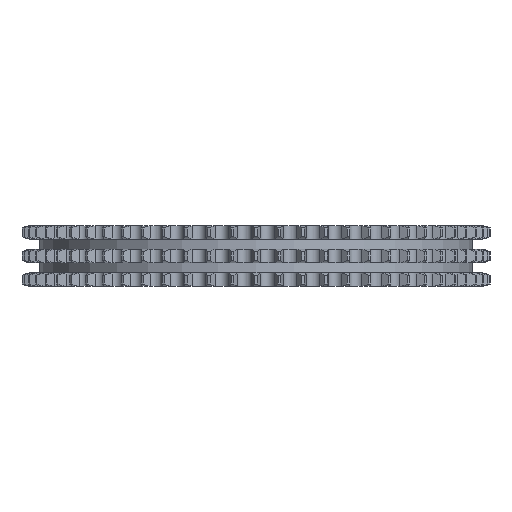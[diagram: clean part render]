
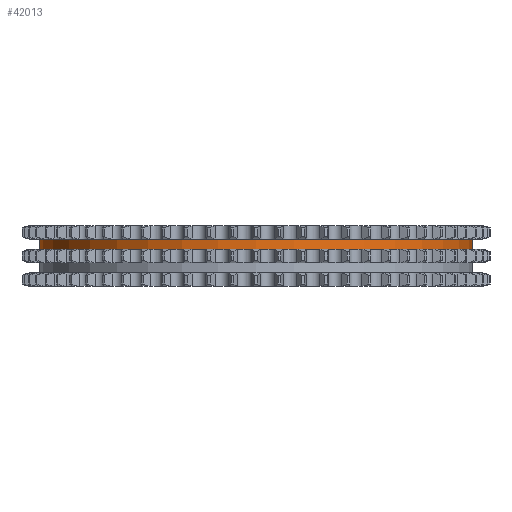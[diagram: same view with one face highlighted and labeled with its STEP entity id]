
A CAD part, left-side view. The second image highlights one B-rep face of the part: STEP entity #42013.
In plain terms, the highlighted cylindrical face has radius 177.058 mm (diameter 354.117 mm), a partial arc.
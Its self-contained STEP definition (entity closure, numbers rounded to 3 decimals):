
#7697=DIRECTION('',(0.,0.,-1.));
#7698=VECTOR('',#7697,8.25);
#7699=CARTESIAN_POINT('',(0.,177.058,13.8));
#7700=LINE('',#7699,#7698);
#7704=CARTESIAN_POINT('',(0.,0.,13.8));
#7705=DIRECTION('',(0.,0.,1.));
#7706=DIRECTION('',(0.,1.,0.));
#7707=AXIS2_PLACEMENT_3D('',#7704,#7705,#7706);
#7712=DIRECTION('',(0.,0.,-1.));
#7713=VECTOR('',#7712,8.25);
#7714=CARTESIAN_POINT('',(0.,-177.058,13.8));
#7715=LINE('',#7714,#7713);
#7719=CARTESIAN_POINT('',(0.,0.,5.55));
#7720=DIRECTION('',(0.,0.,1.));
#7721=DIRECTION('',(0.,1.,0.));
#7722=AXIS2_PLACEMENT_3D('',#7719,#7720,#7721);
#34050=CARTESIAN_POINT('',(0.,177.058,13.8));
#34051=CARTESIAN_POINT('',(0.,177.058,5.55));
#34052=VERTEX_POINT('',#34050);
#34053=VERTEX_POINT('',#34051);
#34054=CARTESIAN_POINT('',(0.,-177.058,13.8));
#34055=CARTESIAN_POINT('',(0.,-177.058,5.55));
#34056=VERTEX_POINT('',#34054);
#34057=VERTEX_POINT('',#34055);
#42001=CARTESIAN_POINT('',(0.,0.,15.18));
#42002=DIRECTION('',(0.,0.,-1.));
#42003=DIRECTION('',(0.,-1.,0.));
#42004=AXIS2_PLACEMENT_3D('',#42001,#42002,#42003);
#42005=CYLINDRICAL_SURFACE('',#42004,177.058);
#42006=ORIENTED_EDGE('',*,*,#41991,.F.);
#42007=ORIENTED_EDGE('',*,*,#41981,.T.);
#42008=ORIENTED_EDGE('',*,*,#41995,.T.);
#42010=ORIENTED_EDGE('',*,*,#42009,.F.);
#42011=EDGE_LOOP('',(#42006,#42007,#42008,#42010));
#42012=FACE_OUTER_BOUND('',#42011,.F.);
#42013=ADVANCED_FACE('',(#42012),#42005,.T.);
#7708=CIRCLE('',#7707,177.058);
#7723=CIRCLE('',#7722,177.058);
#41981=EDGE_CURVE('',#34052,#34056,#7708,.T.);
#41991=EDGE_CURVE('',#34052,#34053,#7700,.T.);
#41995=EDGE_CURVE('',#34056,#34057,#7715,.T.);
#42009=EDGE_CURVE('',#34053,#34057,#7723,.T.);
